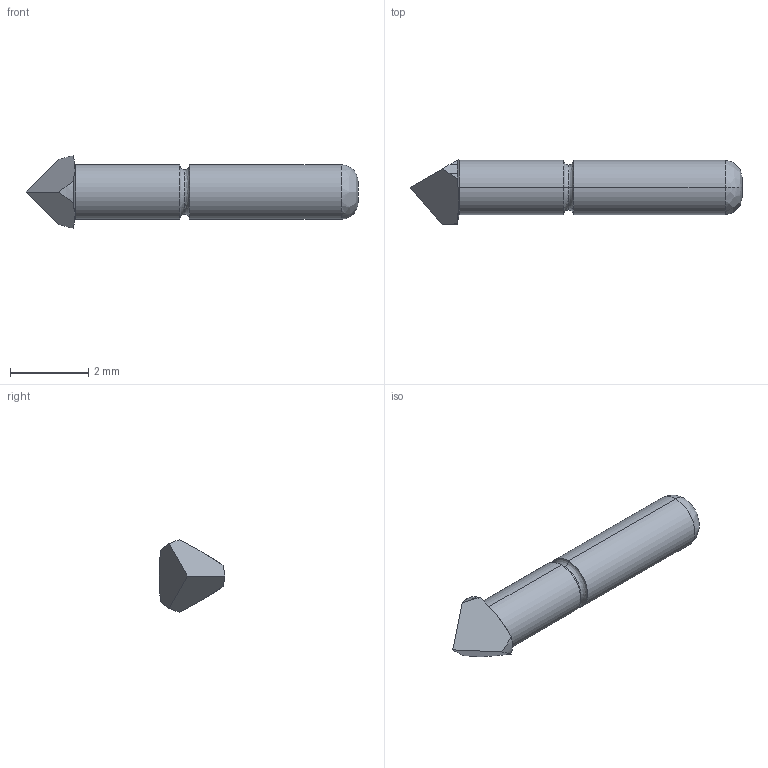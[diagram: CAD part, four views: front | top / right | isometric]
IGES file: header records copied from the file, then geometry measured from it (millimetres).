
Start section: SolidWorks IGES file using analytic representation for surfaces
Global section: file name: Z:\probe solid model mockups\Solidworks models\IGES Files\HPA-64\HPA-64-8 RECD.IGS; native system: SolidWorks 2006 by SolidWorks Corporation; preprocessor: SolidWorks 2006 by SolidWorks Corporation; author: tsakatani; date: 071220.100427; units: inch
Bounding box: 8.51 x 1.67 x 1.86 mm (x, y, z)
Surface area: 39.1 mm2 (no closed solid volume)
Topology: 0 solids, 0 shells, 20 faces, 146 edges, 146 vertices
Faces by surface type: bspline 11, revolution 9
